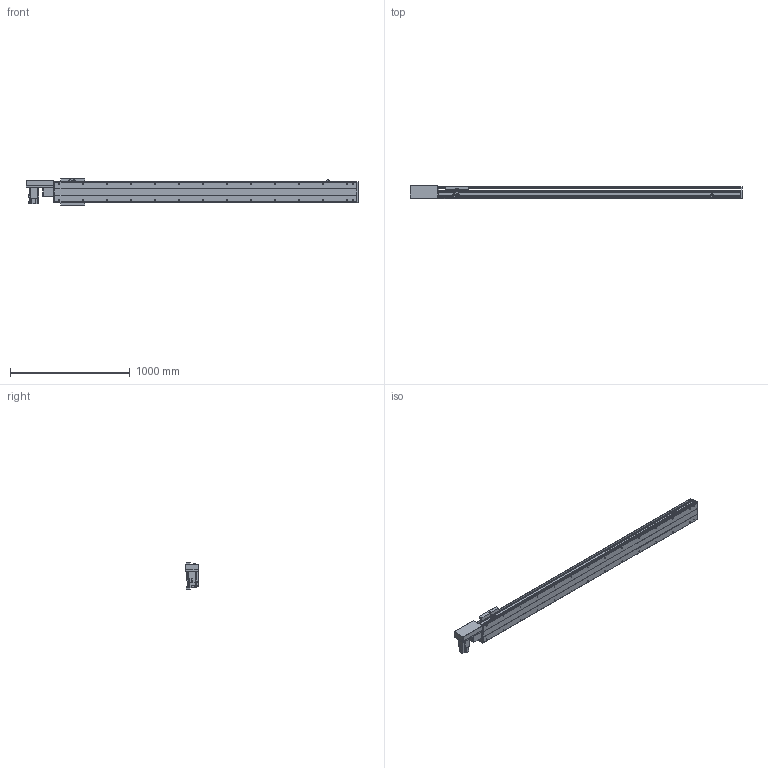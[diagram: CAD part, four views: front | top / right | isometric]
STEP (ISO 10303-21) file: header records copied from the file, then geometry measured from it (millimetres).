
FILE_DESCRIPTION(/* description */ ('STEP AP214'),/* implementation_level */ '2;1');
FILE_NAME(/* name */ 'PBS200-P40-S2150-R-T75-C1-N(0)',/* time_stamp */ '2022-06-11T08:10:06+02:00',/* author */ ('License CC BY-ND 4.0'),/* organization */ ('CADENAS'),/* preprocessor_version */ 'ST-DEVELOPER v18.102',/* originating_system */ 'PARTsolutions',/* authorisation */ ' ');
FILE_SCHEMA (('AUTOMOTIVE_DESIGN {1 0 10303 214 3 1 1}'));
Length unit declared in the file: millimetre
Products named in the file (7): PBS200-P40-S2150-R-T75-C1-N(0); PBS200_sensor; PBS200_plant; PBS200_sliser; T75-p1; PBS200T-R_motors; PBS200-S2150()_body
Assembly tree (8 placements, depth 2):
  PBS200-P40-S2150-R-T75-C1-N(0)
    PBS200_sensor  x3
    PBS200_plant
    PBS200_sliser
    T75-p1
    PBS200T-R_motors
    PBS200-S2150()_body
Bounding box: 2772 x 109 x 221 mm (x, y, z)
Volume: 18417972.5 mm3; surface area: 2951995 mm2
Topology: 8 solids, 8 shells, 956 faces, 2434 edges, 1584 vertices
Faces by surface type: plane 586, cylinder 310, cone 60
Full cylindrical faces by diameter (mm): 2.459 x6, 3.242 x4, 4.5 x6, 4.917 x4, 5 x6, 6 x7, 6.6 x8, 6.647 x32, 8 x6, 10 x4, 12 x8, 38 x2, 40 x1, 70 x1
Entity records: 25301 total; most frequent: DIRECTION 4471, CARTESIAN_POINT 4300, ORIENTED_EDGE 4054, EDGE_CURVE 2027, AXIS2_PLACEMENT_3D 1579, VERTEX_POINT 1408, LINE 1313, VECTOR 1313
